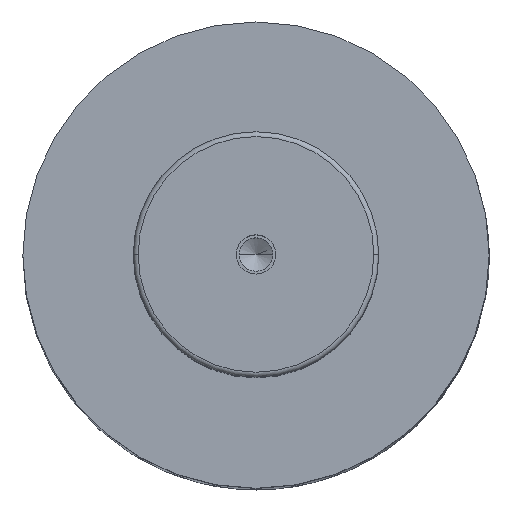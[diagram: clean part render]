
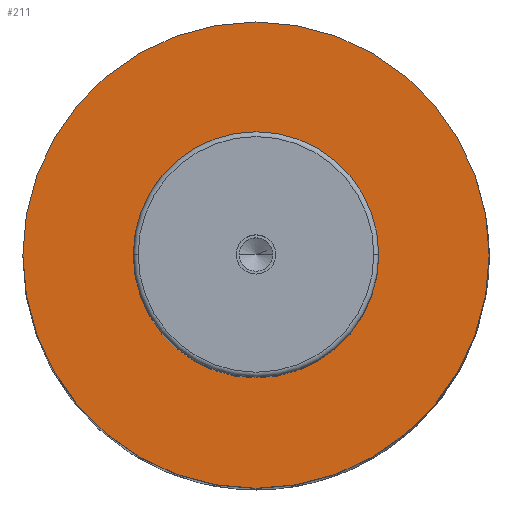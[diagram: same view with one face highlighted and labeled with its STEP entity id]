
A CAD part, top view. The second image highlights one B-rep face of the part: STEP entity #211.
In plain terms, the highlighted planar face has unit normal (0, 0, 1).
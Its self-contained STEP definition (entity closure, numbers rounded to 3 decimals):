
#109=PLANE('',#1266);
#138=FACE_BOUND('',#359,.T.);
#139=FACE_BOUND('',#360,.T.);
#211=ADVANCED_FACE('',(#138,#139),#109,.T.);
#359=EDGE_LOOP('',(#571,#572));
#360=EDGE_LOOP('',(#573,#574));
#451=CIRCLE('',#1260,25.);
#452=CIRCLE('',#1262,25.);
#453=CIRCLE('',#1264,47.5);
#454=CIRCLE('',#1265,47.5);
#571=ORIENTED_EDGE('',*,*,#970,.F.);
#572=ORIENTED_EDGE('',*,*,#971,.F.);
#573=ORIENTED_EDGE('',*,*,#969,.T.);
#574=ORIENTED_EDGE('',*,*,#967,.T.);
#856=VERTEX_POINT('',#1837);
#857=VERTEX_POINT('',#1839);
#858=VERTEX_POINT('',#1845);
#859=VERTEX_POINT('',#1846);
#967=EDGE_CURVE('',#857,#856,#451,.T.);
#969=EDGE_CURVE('',#856,#857,#452,.T.);
#970=EDGE_CURVE('',#858,#859,#453,.T.);
#971=EDGE_CURVE('',#859,#858,#454,.T.);
#1260=AXIS2_PLACEMENT_3D('',#1838,#1456,#1457);
#1262=AXIS2_PLACEMENT_3D('',#1842,#1461,#1462);
#1264=AXIS2_PLACEMENT_3D('',#1844,#1465,#1466);
#1265=AXIS2_PLACEMENT_3D('',#1847,#1467,#1468);
#1266=AXIS2_PLACEMENT_3D('',#1848,#1469,#1470);
#1456=DIRECTION('',(0.,0.,-1.));
#1457=DIRECTION('',(0.,1.,0.));
#1461=DIRECTION('',(0.,0.,-1.));
#1462=DIRECTION('',(0.,-1.,0.));
#1465=DIRECTION('',(0.,0.,-1.));
#1466=DIRECTION('',(0.,1.,0.));
#1467=DIRECTION('',(0.,0.,-1.));
#1468=DIRECTION('',(0.,-1.,0.));
#1469=DIRECTION('',(0.,0.,1.));
#1470=DIRECTION('',(0.,-1.,0.));
#1837=CARTESIAN_POINT('',(-25.,0.,197.));
#1838=CARTESIAN_POINT('',(0.,0.,197.));
#1839=CARTESIAN_POINT('',(25.,0.,197.));
#1842=CARTESIAN_POINT('',(0.,0.,197.));
#1844=CARTESIAN_POINT('',(0.,0.,197.));
#1845=CARTESIAN_POINT('',(47.5,0.,197.));
#1846=CARTESIAN_POINT('',(-47.5,0.,197.));
#1847=CARTESIAN_POINT('',(0.,0.,197.));
#1848=CARTESIAN_POINT('',(0.,0.,197.));
